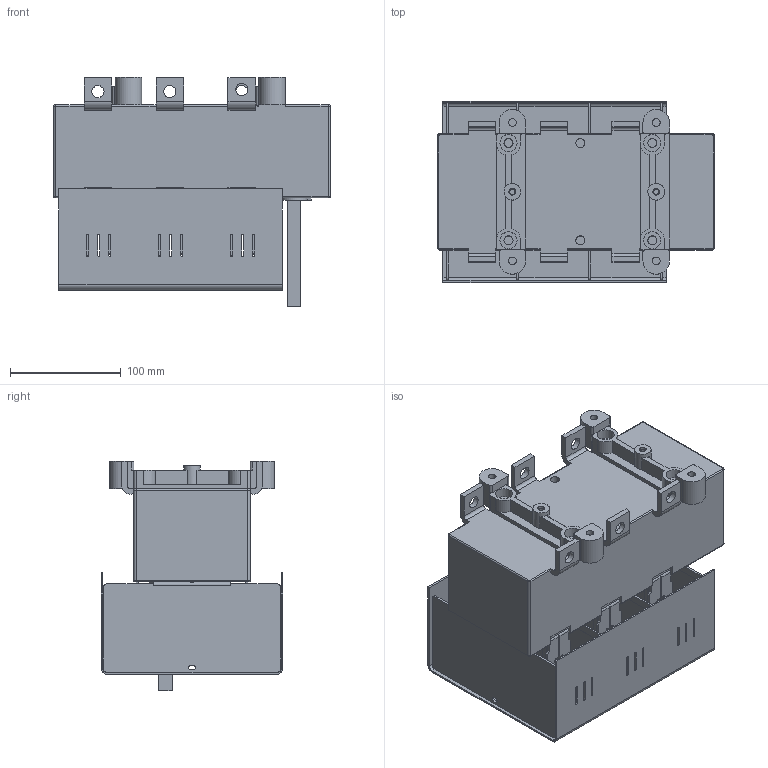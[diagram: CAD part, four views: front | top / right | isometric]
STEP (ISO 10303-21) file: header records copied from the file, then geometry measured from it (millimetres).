
FILE_DESCRIPTION(/* description */ (''),/* implementation_level */ '2;1');
FILE_NAME(/* name */ 'RAB 2 P3 C-R z oslona zaciskow.stp',/* time_stamp */ '2021-08-19T14:25:30+02:00',/* author */ (''),/* organization */ (''),/* preprocessor_version */ 'ST-DEVELOPER v18.1',/* originating_system */ 'SIEMENS PLM Software NX 1965',/* authorisation */ '');
FILE_SCHEMA (('AUTOMOTIVE_DESIGN { 1 0 10303 214 3 1 1 1 }'));
Length unit declared in the file: millimetre
Products named in the file (1): RAB 2 P3 C-R z oslona zaciskow_stp
Bounding box: 250 x 164 x 207.3 mm (x, y, z)
Volume: 2445750.6 mm3; surface area: 437663.7 mm2
Topology: 1 solids, 7 shells, 1124 faces, 3068 edges, 1990 vertices
Faces by surface type: plane 730, cylinder 386, torus 5, bspline 3
Full cylindrical faces by diameter (mm): 4.8 x2, 5.2 x18, 6.2 x2, 7 x4, 8.2 x6, 11 x6, 14 x4, 15 x2, 15.5 x4
Entity records: 35465 total; most frequent: CARTESIAN_POINT 6268, DIRECTION 6040, ORIENTED_EDGE 6032, EDGE_CURVE 3016, LINE 2212, VECTOR 2212, VERTEX_POINT 1986, AXIS2_PLACEMENT_3D 1914
